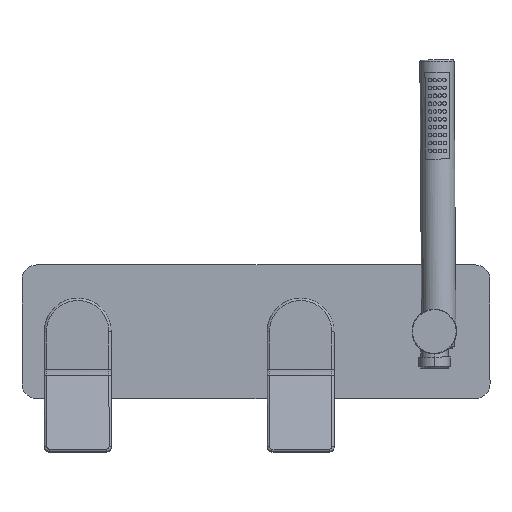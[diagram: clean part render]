
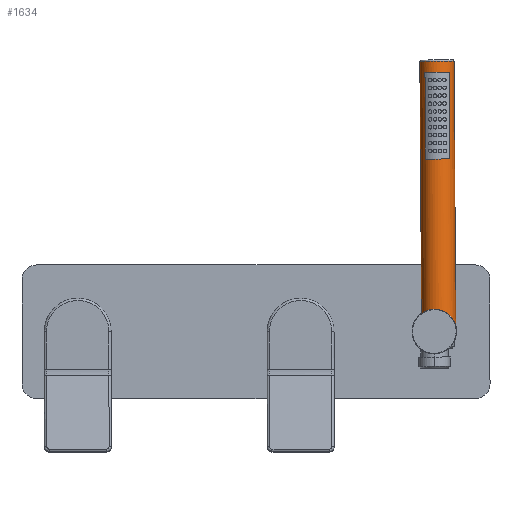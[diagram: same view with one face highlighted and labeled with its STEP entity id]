
A CAD part, top view. The second image highlights one B-rep face of the part: STEP entity #1634.
In plain terms, the highlighted cylindrical face has radius 11.5 mm (diameter 23 mm), a partial arc.
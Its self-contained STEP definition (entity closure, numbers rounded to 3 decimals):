
#19 = ORIENTED_EDGE ( 'NONE', *, *, #7775, .T. ) ;
#96 = AXIS2_PLACEMENT_3D ( 'NONE', #4459, #14044, #14106 ) ;
#564 = VERTEX_POINT ( 'NONE', #7720 ) ;
#646 = FACE_BOUND ( 'NONE', #2470, .T. ) ;
#717 = DIRECTION ( 'NONE',  ( -0.007, 1., 0. ) ) ;
#725 = CIRCLE ( 'NONE', #6007, 11.5 ) ;
#763 = CARTESIAN_POINT ( 'NONE',  ( 121.32, 194.95, 407.7 ) ) ;
#785 = CARTESIAN_POINT ( 'NONE',  ( 133.126, 149.028, 407.644 ) ) ;
#805 = VECTOR ( 'NONE', #12001, 1000. ) ;
#899 = CARTESIAN_POINT ( 'NONE',  ( 122.542, 11.455, 407.7 ) ) ;
#1283 = ORIENTED_EDGE ( 'NONE', *, *, #3092, .T. ) ;
#1479 = VERTEX_POINT ( 'NONE', #5084 ) ;
#1634 = ADVANCED_FACE ( 'NONE', ( #646, #7132 ), #8344, .T. ) ;
#1883 = EDGE_CURVE ( 'NONE', #14112, #8039, #6491, .T. ) ;
#2122 = DIRECTION ( 'NONE',  ( -0.007, 1., 0. ) ) ;
#2172 = VERTEX_POINT ( 'NONE', #7234 ) ;
#2470 = EDGE_LOOP ( 'NONE', ( #3497, #12177, #7715, #19 ) ) ;
#2585 = DIRECTION ( 'NONE',  ( -1., -0.007, 0.005 ) ) ;
#2693 = CARTESIAN_POINT ( 'NONE',  ( 129.815, 149.006, 415.774 ) ) ;
#2810 = CARTESIAN_POINT ( 'NONE',  ( 121.626, 148.951, 407.7 ) ) ;
#3092 = EDGE_CURVE ( 'NONE', #564, #11800, #725, .T. ) ;
#3098 = CIRCLE ( 'NONE', #96, 11.5 ) ;
#3264 = LINE ( 'NONE', #4341, #11156 ) ;
#3497 = ORIENTED_EDGE ( 'NONE', *, *, #1883, .T. ) ;
#4085 = DIRECTION ( 'NONE',  ( -0.007, 1., 0. ) ) ;
#4088 = CARTESIAN_POINT ( 'NONE',  ( 129.946, 129.306, 415.774 ) ) ;
#4221 = CARTESIAN_POINT ( 'NONE',  ( 110.126, 148.875, 407.756 ) ) ;
#4341 = CARTESIAN_POINT ( 'NONE',  ( 113.515, 148.897, 415.853 ) ) ;
#4459 = CARTESIAN_POINT ( 'NONE',  ( 121.757, 129.252, 407.7 ) ) ;
#4732 = CARTESIAN_POINT ( 'NONE',  ( 121.367, 187.751, 407.7 ) ) ;
#4882 = ORIENTED_EDGE ( 'NONE', *, *, #11721, .F. ) ;
#5084 = CARTESIAN_POINT ( 'NONE',  ( 132.819, 195.027, 407.644 ) ) ;
#5338 = AXIS2_PLACEMENT_3D ( 'NONE', #4732, #6747, #2585 ) ;
#5520 = ORIENTED_EDGE ( 'NONE', *, *, #5722, .T. ) ;
#5628 = CIRCLE ( 'NONE', #8401, 11.5 ) ;
#5722 = EDGE_CURVE ( 'NONE', #11800, #1479, #8283, .T. ) ;
#6007 = AXIS2_PLACEMENT_3D ( 'NONE', #899, #2122, #11901 ) ;
#6020 = EDGE_CURVE ( 'NONE', #10625, #10375, #3098, .T. ) ;
#6113 = DIRECTION ( 'NONE',  ( -1., -0.007, 0.005 ) ) ;
#6491 = CIRCLE ( 'NONE', #5338, 11.5 ) ;
#6501 = DIRECTION ( 'NONE',  ( -0.007, 1., 0. ) ) ;
#6747 = DIRECTION ( 'NONE',  ( -0.007, 1., 0. ) ) ;
#6978 = CARTESIAN_POINT ( 'NONE',  ( 134.041, 11.531, 407.644 ) ) ;
#7132 = FACE_OUTER_BOUND ( 'NONE', #8335, .T. ) ;
#7153 = CARTESIAN_POINT ( 'NONE',  ( 113.647, 129.198, 415.853 ) ) ;
#7234 = CARTESIAN_POINT ( 'NONE',  ( 109.82, 194.874, 407.756 ) ) ;
#7616 = LINE ( 'NONE', #4221, #805 ) ;
#7715 = ORIENTED_EDGE ( 'NONE', *, *, #6020, .T. ) ;
#7720 = CARTESIAN_POINT ( 'NONE',  ( 111.042, 11.378, 407.756 ) ) ;
#7775 = EDGE_CURVE ( 'NONE', #10375, #14112, #3264, .T. ) ;
#8039 = VERTEX_POINT ( 'NONE', #12697 ) ;
#8283 = LINE ( 'NONE', #785, #9648 ) ;
#8335 = EDGE_LOOP ( 'NONE', ( #1283, #5520, #11982, #4882 ) ) ;
#8344 = CYLINDRICAL_SURFACE ( 'NONE', #10067, 11.5 ) ;
#8394 = EDGE_CURVE ( 'NONE', #8039, #10625, #13472, .T. ) ;
#8401 = AXIS2_PLACEMENT_3D ( 'NONE', #763, #9537, #12714 ) ;
#9537 = DIRECTION ( 'NONE',  ( 0.007, -1., 0. ) ) ;
#9648 = VECTOR ( 'NONE', #717, 1000. ) ;
#10067 = AXIS2_PLACEMENT_3D ( 'NONE', #2810, #4085, #6113 ) ;
#10227 = DIRECTION ( 'NONE',  ( 0.007, -1., 0. ) ) ;
#10375 = VERTEX_POINT ( 'NONE', #7153 ) ;
#10625 = VERTEX_POINT ( 'NONE', #4088 ) ;
#11156 = VECTOR ( 'NONE', #6501, 1000. ) ;
#11484 = CARTESIAN_POINT ( 'NONE',  ( 113.257, 187.697, 415.853 ) ) ;
#11721 = EDGE_CURVE ( 'NONE', #564, #2172, #7616, .T. ) ;
#11800 = VERTEX_POINT ( 'NONE', #6978 ) ;
#11901 = DIRECTION ( 'NONE',  ( -1., -0.007, 0.005 ) ) ;
#11982 = ORIENTED_EDGE ( 'NONE', *, *, #14194, .T. ) ;
#12001 = DIRECTION ( 'NONE',  ( -0.007, 1., 0. ) ) ;
#12177 = ORIENTED_EDGE ( 'NONE', *, *, #8394, .T. ) ;
#12697 = CARTESIAN_POINT ( 'NONE',  ( 129.556, 187.805, 415.774 ) ) ;
#12714 = DIRECTION ( 'NONE',  ( -1., -0.007, 0.005 ) ) ;
#13472 = LINE ( 'NONE', #2693, #13944 ) ;
#13944 = VECTOR ( 'NONE', #10227, 1000. ) ;
#14044 = DIRECTION ( 'NONE',  ( 0.007, -1., 0. ) ) ;
#14106 = DIRECTION ( 'NONE',  ( -1., -0.007, 0.005 ) ) ;
#14112 = VERTEX_POINT ( 'NONE', #11484 ) ;
#14194 = EDGE_CURVE ( 'NONE', #1479, #2172, #5628, .T. ) ;
